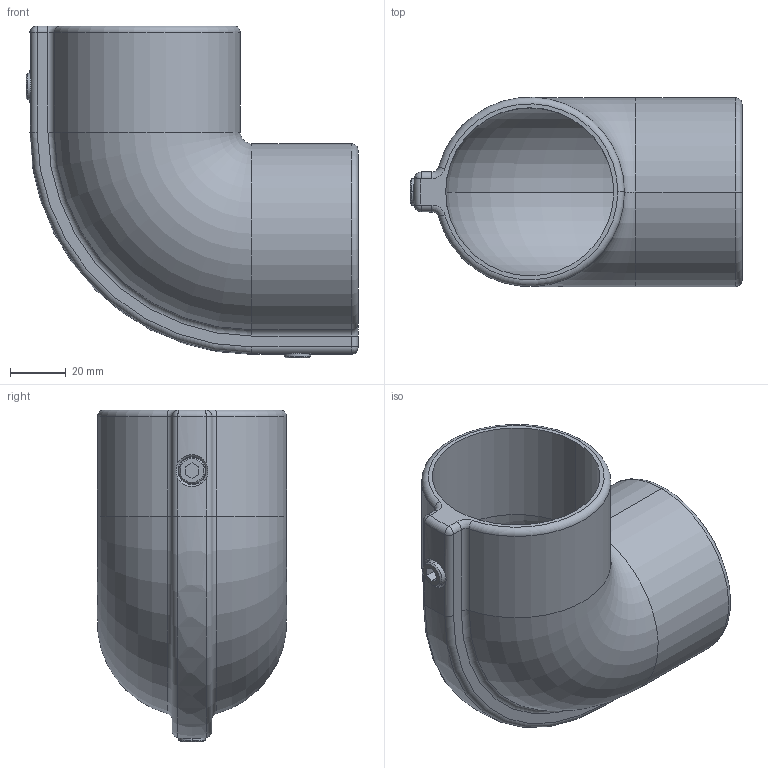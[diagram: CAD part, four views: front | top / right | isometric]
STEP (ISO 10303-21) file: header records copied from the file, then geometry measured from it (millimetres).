
FILE_DESCRIPTION(/* description */ ('(C) Elphel, Inc. 2012. Licensed under CERN OHL v.1.1 or later, see http://ohwr.org/cernohl'),/* implementation_level */ '2;1');
FILE_NAME(/* name */ '0353-80-05',/* time_stamp */ '2012-06-10T22:11:00-06:00',/* author */ (''),/* organization */ ('Elphel, Inc'),/* preprocessor_version */ 'ST-DEVELOPER v12',/* originating_system */ 'VariCAD 2012-1.04; kernel version (20100102)',/* authorisation */ '');
FILE_SCHEMA (('AUTOMOTIVE_DESIGN'));
Length unit declared in the file: millimetre
Products named in the file (1): Part
Bounding box: 119.17 x 67.87 x 119.17 mm (x, y, z)
Volume: 125239.2 mm3; surface area: 60317.1 mm2
Topology: 3 solids, 3 shells, 87 faces, 203 edges, 116 vertices
Faces by surface type: cylinder 34, plane 22, torus 19, bspline 4, sphere 4, cone 4
Entity records: 2889 total; most frequent: CARTESIAN_POINT 883, DIRECTION 430, ORIENTED_EDGE 398, EDGE_CURVE 199, AXIS2_PLACEMENT_3D 172, VERTEX_POINT 116, EDGE_LOOP 91, ADVANCED_FACE 87
